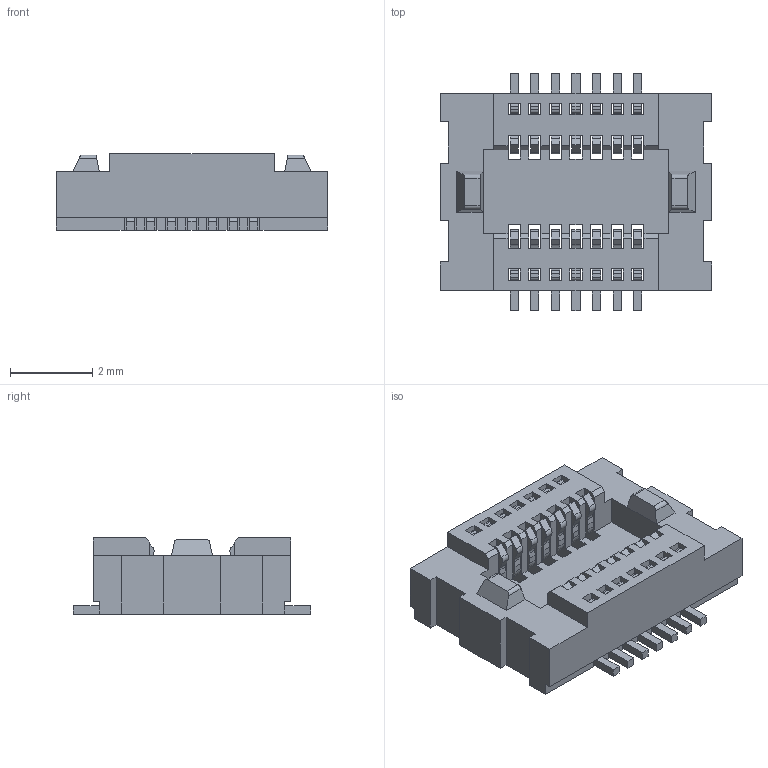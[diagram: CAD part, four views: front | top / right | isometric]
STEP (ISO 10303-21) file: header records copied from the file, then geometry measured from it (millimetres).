
FILE_DESCRIPTION(('CATIA V5 STEP Exchange'),'2;1');
FILE_NAME('F:\黄富鸿\板对板\0.5 单槽\无柱\母座\H1.85\HC-PBB05-1-14-F-H1.85-G1-R-06 (BTB0.5 单槽 母座 立贴 编带)-HCTL.stp','2026-01-23T03:44:34+00:00',('none'),('none'),'CATIA Version 5 Release 20 GA (IN-10)','CATIA V5 STEP AP203','none');
FILE_SCHEMA(('CONFIG_CONTROL_DESIGN'));
Length unit declared in the file: millimetre
Products named in the file (1): Part2
Bounding box: 6.6 x 5.76 x 1.85 mm (x, y, z)
Volume: 37.8 mm3; surface area: 228.9 mm2
Topology: 15 solids, 15 shells, 670 faces, 2042 edges, 1360 vertices
Faces by surface type: plane 470, cylinder 200
Entity records: 19842 total; most frequent: ORIENTED_EDGE 4084, CARTESIAN_POINT 3611, DIRECTION 2294, EDGE_CURVE 2042, VECTOR 1642, LINE 1642, VERTEX_POINT 1360, EDGE_LOOP 684
